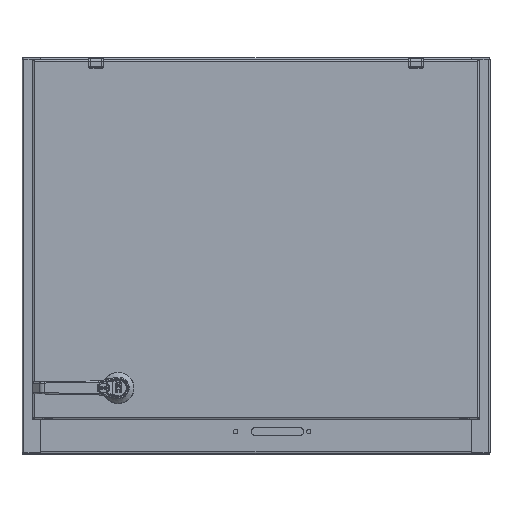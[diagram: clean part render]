
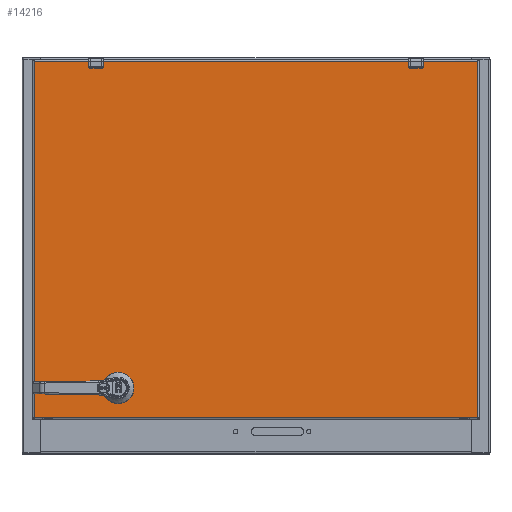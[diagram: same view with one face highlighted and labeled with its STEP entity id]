
A CAD part, top view. The second image highlights one B-rep face of the part: STEP entity #14216.
In plain terms, the highlighted planar face has unit normal (0, 0, 1).
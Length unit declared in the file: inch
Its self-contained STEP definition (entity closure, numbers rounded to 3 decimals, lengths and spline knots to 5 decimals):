
#10823=CARTESIAN_POINT('',(9.525,-9.915,0.));
#10824=DIRECTION('',(0.,0.,1.));
#10825=DIRECTION('',(-1.,0.,0.));
#10826=AXIS2_PLACEMENT_3D('',#10823,#10824,#10825);
#10831=CARTESIAN_POINT('',(9.525,-9.915,0.));
#10832=DIRECTION('',(0.,0.,1.));
#10833=DIRECTION('',(1.,0.,0.));
#10834=AXIS2_PLACEMENT_3D('',#10831,#10832,#10833);
#10839=DIRECTION('',(1.,0.,0.));
#10840=VECTOR('',#10839,0.39715);
#10841=CARTESIAN_POINT('',(9.32642,-8.429,0.));
#10842=LINE('',#10841,#10840);
#10846=CARTESIAN_POINT('',(9.525,-8.825,0.));
#10847=DIRECTION('',(0.,0.,1.));
#10848=DIRECTION('',(-0.448,0.894,0.));
#10849=AXIS2_PLACEMENT_3D('',#10846,#10847,#10848);
#10854=DIRECTION('',(0.,1.,0.));
#10855=VECTOR('',#10854,0.39715);
#10856=CARTESIAN_POINT('',(9.129,-9.02358,0.));
#10857=LINE('',#10856,#10855);
#10861=CARTESIAN_POINT('',(9.525,-8.825,0.));
#10862=DIRECTION('',(0.,0.,1.));
#10863=DIRECTION('',(-0.894,-0.448,0.));
#10864=AXIS2_PLACEMENT_3D('',#10861,#10862,#10863);
#10869=DIRECTION('',(-1.,0.,0.));
#10870=VECTOR('',#10869,0.39715);
#10871=CARTESIAN_POINT('',(9.72358,-9.221,0.));
#10872=LINE('',#10871,#10870);
#10876=CARTESIAN_POINT('',(9.525,-8.825,0.));
#10877=DIRECTION('',(0.,0.,1.));
#10878=DIRECTION('',(0.448,-0.894,0.));
#10879=AXIS2_PLACEMENT_3D('',#10876,#10877,#10878);
#10884=DIRECTION('',(0.,-1.,0.));
#10885=VECTOR('',#10884,0.39715);
#10886=CARTESIAN_POINT('',(9.921,-8.62642,0.));
#10887=LINE('',#10886,#10885);
#10891=CARTESIAN_POINT('',(9.525,-8.825,0.));
#10892=DIRECTION('',(0.,0.,1.));
#10893=DIRECTION('',(0.894,0.448,0.));
#10894=AXIS2_PLACEMENT_3D('',#10891,#10892,#10893);
#10899=DIRECTION('',(1.,0.,0.));
#10900=VECTOR('',#10899,0.3629);
#10901=CARTESIAN_POINT('',(-11.4205,-10.595,0.));
#10902=LINE('',#10901,#10900);
#10906=DIRECTION('',(0.,1.,0.));
#10907=VECTOR('',#10906,0.63);
#10908=CARTESIAN_POINT('',(-11.0276,-10.565,0.));
#10909=LINE('',#10908,#10907);
#10913=DIRECTION('',(1.,0.,0.));
#10914=VECTOR('',#10913,0.3629);
#10915=CARTESIAN_POINT('',(-11.4205,-9.905,0.));
#10916=LINE('',#10915,#10914);
#10920=DIRECTION('',(1.,0.,0.));
#10921=VECTOR('',#10920,0.3629);
#10922=CARTESIAN_POINT('',(-11.4205,9.905,0.));
#10923=LINE('',#10922,#10921);
#10927=DIRECTION('',(0.,1.,0.));
#10928=VECTOR('',#10927,0.63);
#10929=CARTESIAN_POINT('',(-11.0276,9.935,0.));
#10930=LINE('',#10929,#10928);
#10934=DIRECTION('',(1.,0.,0.));
#10935=VECTOR('',#10934,0.3629);
#10936=CARTESIAN_POINT('',(-11.4205,10.595,0.));
#10937=LINE('',#10936,#10935);
#11506=DIRECTION('',(0.,-1.,0.));
#11507=VECTOR('',#11506,28.416);
#11508=CARTESIAN_POINT('',(11.4205,14.208,0.));
#11509=LINE('',#11508,#11507);
#11579=DIRECTION('',(1.,0.,0.));
#11580=VECTOR('',#11579,22.841);
#11581=CARTESIAN_POINT('',(-11.4205,14.208,0.));
#11582=LINE('',#11581,#11580);
#11709=DIRECTION('',(0.,1.,0.));
#11710=VECTOR('',#11709,19.81);
#11711=CARTESIAN_POINT('',(-11.4205,-9.905,0.));
#11712=LINE('',#11711,#11710);
#11716=CARTESIAN_POINT('',(-11.4205,14.208,0.));
#11754=DIRECTION('',(0.,1.,0.));
#11755=VECTOR('',#11754,3.613);
#11756=CARTESIAN_POINT('',(-11.4205,10.595,0.));
#11757=LINE('',#11756,#11755);
#11829=DIRECTION('',(0.,1.,0.));
#11830=VECTOR('',#11829,3.613);
#11831=CARTESIAN_POINT('',(-11.4205,-14.208,0.));
#11832=LINE('',#11831,#11830);
#11850=CARTESIAN_POINT('',(-11.0576,-9.935,0.));
#11851=DIRECTION('',(0.,0.,-1.));
#11852=DIRECTION('',(0.,1.,0.));
#11853=AXIS2_PLACEMENT_3D('',#11850,#11851,#11852);
#11880=CARTESIAN_POINT('',(-11.0576,-10.565,0.));
#11881=DIRECTION('',(0.,0.,-1.));
#11882=DIRECTION('',(1.,0.,0.));
#11883=AXIS2_PLACEMENT_3D('',#11880,#11881,#11882);
#12222=DIRECTION('',(-1.,0.,0.));
#12223=VECTOR('',#12222,22.841);
#12224=CARTESIAN_POINT('',(11.4205,-14.208,0.));
#12225=LINE('',#12224,#12223);
#12479=CARTESIAN_POINT('',(-11.0576,9.935,0.));
#12480=DIRECTION('',(0.,0.,-1.));
#12481=DIRECTION('',(1.,0.,0.));
#12482=AXIS2_PLACEMENT_3D('',#12479,#12480,#12481);
#12509=CARTESIAN_POINT('',(-11.0576,10.565,0.));
#12510=DIRECTION('',(0.,0.,-1.));
#12511=DIRECTION('',(0.,1.,0.));
#12512=AXIS2_PLACEMENT_3D('',#12509,#12510,#12511);
#13731=CARTESIAN_POINT('',(11.4205,14.208,0.));
#13732=CARTESIAN_POINT('',(11.4205,-14.208,0.));
#13733=VERTEX_POINT('',#13731);
#13734=VERTEX_POINT('',#13732);
#13859=CARTESIAN_POINT('',(9.4,-9.915,0.));
#13860=CARTESIAN_POINT('',(9.65,-9.915,0.));
#13861=VERTEX_POINT('',#13859);
#13862=VERTEX_POINT('',#13860);
#13863=CARTESIAN_POINT('',(9.32642,-8.429,0.));
#13864=CARTESIAN_POINT('',(9.72358,-8.429,0.));
#13865=VERTEX_POINT('',#13863);
#13866=VERTEX_POINT('',#13864);
#13867=CARTESIAN_POINT('',(9.921,-8.62642,0.));
#13868=VERTEX_POINT('',#13867);
#13869=CARTESIAN_POINT('',(9.921,-9.02358,0.));
#13870=VERTEX_POINT('',#13869);
#13871=CARTESIAN_POINT('',(9.72358,-9.221,0.));
#13872=VERTEX_POINT('',#13871);
#13873=CARTESIAN_POINT('',(9.32642,-9.221,0.));
#13874=VERTEX_POINT('',#13873);
#13875=CARTESIAN_POINT('',(9.129,-9.02358,0.));
#13876=VERTEX_POINT('',#13875);
#13877=CARTESIAN_POINT('',(9.129,-8.62642,0.));
#13878=VERTEX_POINT('',#13877);
#13929=VERTEX_POINT('',#11716);
#13934=CARTESIAN_POINT('',(-11.4205,-14.208,0.));
#13936=VERTEX_POINT('',#13934);
#14057=CARTESIAN_POINT('',(-11.4205,10.595,0.));
#14059=VERTEX_POINT('',#14057);
#14061=CARTESIAN_POINT('',(-11.4205,9.905,0.));
#14063=VERTEX_POINT('',#14061);
#14073=CARTESIAN_POINT('',(-11.4205,-9.905,0.));
#14075=VERTEX_POINT('',#14073);
#14077=CARTESIAN_POINT('',(-11.4205,-10.595,0.));
#14079=VERTEX_POINT('',#14077);
#14089=CARTESIAN_POINT('',(-11.0576,10.595,0.));
#14091=VERTEX_POINT('',#14089);
#14093=CARTESIAN_POINT('',(-11.0276,10.565,0.));
#14095=VERTEX_POINT('',#14093);
#14097=CARTESIAN_POINT('',(-11.0276,9.935,0.));
#14099=VERTEX_POINT('',#14097);
#14101=CARTESIAN_POINT('',(-11.0576,9.905,0.));
#14103=VERTEX_POINT('',#14101);
#14121=CARTESIAN_POINT('',(-11.0576,-9.905,0.));
#14123=VERTEX_POINT('',#14121);
#14125=CARTESIAN_POINT('',(-11.0276,-9.935,0.));
#14127=VERTEX_POINT('',#14125);
#14129=CARTESIAN_POINT('',(-11.0276,-10.565,0.));
#14131=VERTEX_POINT('',#14129);
#14133=CARTESIAN_POINT('',(-11.0576,-10.595,0.));
#14135=VERTEX_POINT('',#14133);
#14153=CARTESIAN_POINT('',(0.,0.,0.));
#14154=DIRECTION('',(0.,0.,-1.));
#14155=DIRECTION('',(1.,0.,0.));
#14156=AXIS2_PLACEMENT_3D('',#14153,#14154,#14155);
#14157=PLANE('',#14156);
#14159=ORIENTED_EDGE('',*,*,#14158,.T.);
#14161=ORIENTED_EDGE('',*,*,#14160,.T.);
#14163=ORIENTED_EDGE('',*,*,#14162,.T.);
#14165=ORIENTED_EDGE('',*,*,#14164,.F.);
#14167=ORIENTED_EDGE('',*,*,#14166,.T.);
#14169=ORIENTED_EDGE('',*,*,#14168,.F.);
#14171=ORIENTED_EDGE('',*,*,#14170,.F.);
#14173=ORIENTED_EDGE('',*,*,#14172,.T.);
#14175=ORIENTED_EDGE('',*,*,#14174,.T.);
#14177=ORIENTED_EDGE('',*,*,#14176,.F.);
#14179=ORIENTED_EDGE('',*,*,#14178,.T.);
#14181=ORIENTED_EDGE('',*,*,#14180,.F.);
#14183=ORIENTED_EDGE('',*,*,#14182,.F.);
#14185=ORIENTED_EDGE('',*,*,#14184,.T.);
#14187=ORIENTED_EDGE('',*,*,#14186,.T.);
#14189=ORIENTED_EDGE('',*,*,#14188,.T.);
#14190=EDGE_LOOP('',(#14159,#14161,#14163,#14165,#14167,#14169,#14171,#14173,
#14175,#14177,#14179,#14181,#14183,#14185,#14187,#14189));
#14191=FACE_OUTER_BOUND('',#14190,.F.);
#14193=ORIENTED_EDGE('',*,*,#14192,.F.);
#14195=ORIENTED_EDGE('',*,*,#14194,.T.);
#14197=ORIENTED_EDGE('',*,*,#14196,.F.);
#14199=ORIENTED_EDGE('',*,*,#14198,.T.);
#14201=ORIENTED_EDGE('',*,*,#14200,.F.);
#14203=ORIENTED_EDGE('',*,*,#14202,.T.);
#14205=ORIENTED_EDGE('',*,*,#14204,.F.);
#14207=ORIENTED_EDGE('',*,*,#14206,.T.);
#14208=EDGE_LOOP('',(#14193,#14195,#14197,#14199,#14201,#14203,#14205,#14207));
#14209=FACE_BOUND('',#14208,.F.);
#14211=ORIENTED_EDGE('',*,*,#14210,.T.);
#14213=ORIENTED_EDGE('',*,*,#14212,.T.);
#14214=EDGE_LOOP('',(#14211,#14213));
#14215=FACE_BOUND('',#14214,.F.);
#10827=CIRCLE('',#10826,0.125);
#10835=CIRCLE('',#10834,0.125);
#10850=CIRCLE('',#10849,0.443);
#10865=CIRCLE('',#10864,0.443);
#10880=CIRCLE('',#10879,0.443);
#10895=CIRCLE('',#10894,0.443);
#11854=CIRCLE('',#11853,0.03);
#11884=CIRCLE('',#11883,0.03);
#12483=CIRCLE('',#12482,0.03);
#12513=CIRCLE('',#12512,0.03);
#14158=EDGE_CURVE('',#13734,#13936,#12225,.T.);
#14160=EDGE_CURVE('',#13936,#14079,#11832,.T.);
#14162=EDGE_CURVE('',#14079,#14135,#10902,.T.);
#14164=EDGE_CURVE('',#14131,#14135,#11884,.T.);
#14166=EDGE_CURVE('',#14131,#14127,#10909,.T.);
#14168=EDGE_CURVE('',#14123,#14127,#11854,.T.);
#14170=EDGE_CURVE('',#14075,#14123,#10916,.T.);
#14172=EDGE_CURVE('',#14075,#14063,#11712,.T.);
#14174=EDGE_CURVE('',#14063,#14103,#10923,.T.);
#14176=EDGE_CURVE('',#14099,#14103,#12483,.T.);
#14178=EDGE_CURVE('',#14099,#14095,#10930,.T.);
#14180=EDGE_CURVE('',#14091,#14095,#12513,.T.);
#14182=EDGE_CURVE('',#14059,#14091,#10937,.T.);
#14184=EDGE_CURVE('',#14059,#13929,#11757,.T.);
#14186=EDGE_CURVE('',#13929,#13733,#11582,.T.);
#14188=EDGE_CURVE('',#13733,#13734,#11509,.T.);
#14192=EDGE_CURVE('',#13865,#13866,#10842,.T.);
#14194=EDGE_CURVE('',#13865,#13878,#10850,.T.);
#14196=EDGE_CURVE('',#13876,#13878,#10857,.T.);
#14198=EDGE_CURVE('',#13876,#13874,#10865,.T.);
#14200=EDGE_CURVE('',#13872,#13874,#10872,.T.);
#14202=EDGE_CURVE('',#13872,#13870,#10880,.T.);
#14204=EDGE_CURVE('',#13868,#13870,#10887,.T.);
#14206=EDGE_CURVE('',#13868,#13866,#10895,.T.);
#14210=EDGE_CURVE('',#13861,#13862,#10827,.T.);
#14212=EDGE_CURVE('',#13862,#13861,#10835,.T.);
#14216=ADVANCED_FACE('',(#14191,#14209,#14215),#14157,.F.);
